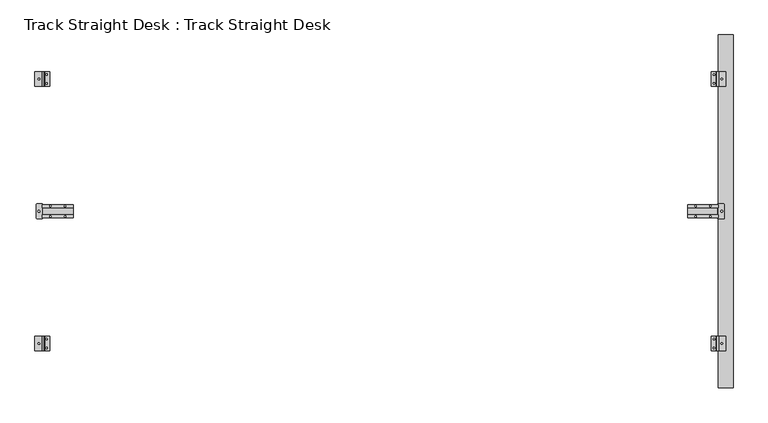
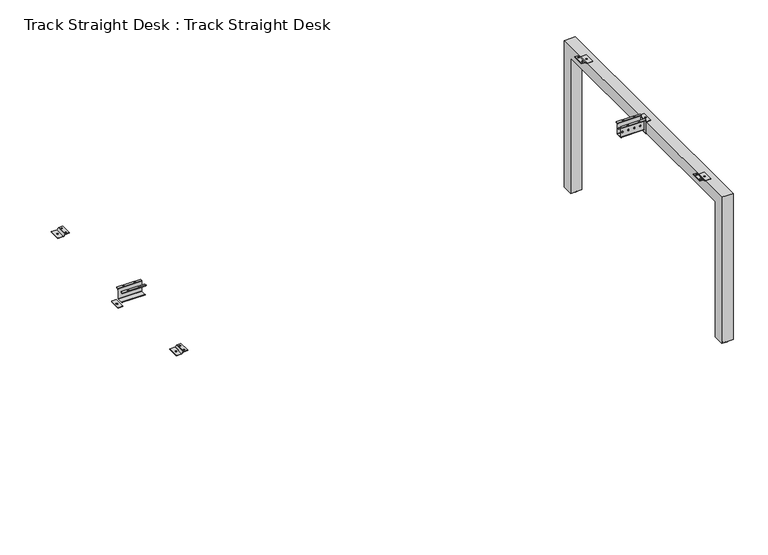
"""IFC4 building model written with IfcOpenShell, lengths in millimetres: furniture geometry, Track Straight Desk : Track Straight Desk."""

from ifc_helpers import new_model, si_unit, point, frame, frame_2d, origin, place, context, project, spatial, polyline, circle_curve, ellipse_curve, trimmed, segment, composite_curve, outline, extrude, source, transform, mapped, element, save
from ifc_brep_helpers import plane_surface, cylinder_surface, revolved_surface, advanced_brep


def track_straight_desk_track_straight_desk_92b57662(model_context):
    return source(origin(), model_context, "Body", "SolidModel", [
        extrude(outline(polyline([(687.4999489, 1150.8242226), (694.9999998, 1142.8242249), (694.9999998, 1141.9957962), (692.9999765, 1141.9957962), (685.4999983, 1149.9957939), (685.4999983, 1150.8242226), (687.4999489, 1150.8242226)])), frame((0.0, 424.9999578, 0.0), z_axis=(0.0, 1.0, 0.0), x_axis=(0.0, 0.0, 1.0)), (0.0, 0.0, 1.0), 50.0000004),
        extrude(outline(polyline([(1125.0000086, 424.9999578), (1125.0000086, 474.9999582), (1141.9957962, 474.9999582), (1141.9957962, 424.9999578), (1125.0000086, 424.9999578)]), holes=[composite_curve([segment(trimmed(circle_curve(frame_2d((1135.0000114, 434.9999652)), 2.4999928), [point((1137.5000041, 434.9999652))], [point((1132.5000186, 434.9999652))], True, "CARTESIAN"), True, "CONTINUOUS"), segment(trimmed(circle_curve(frame_2d((1135.0000114, 434.9999652)), 2.4999928), [point((1132.5000186, 434.9999652))], [point((1137.5000041, 434.9999652))], True, "CARTESIAN"), True, "CONTINUOUS")], self_intersect=False), composite_curve([segment(trimmed(circle_curve(frame_2d((1135.0000114, 464.9999509)), 2.4999928), [point((1137.5000041, 464.9999509))], [point((1132.5000186, 464.9999509))], True, "CARTESIAN"), True, "CONTINUOUS"), segment(trimmed(circle_curve(frame_2d((1135.0000114, 464.9999509)), 2.4999928), [point((1132.5000186, 464.9999509))], [point((1137.5000041, 464.9999509))], True, "CARTESIAN"), True, "CONTINUOUS")], self_intersect=False)]), frame((0.0, 0.0, 692.9999765), z_axis=(0.0, 0.0, 1.0), x_axis=(1.0, 0.0, 0.0)), (0.0, 0.0, 1.0), 2.0000233),
        extrude(outline(polyline([(1150.8242226, 424.9999578), (1150.8242226, 474.9999582), (1175.000009, 474.9999582), (1175.000009, 424.9999578), (1150.8242226, 424.9999578)]), holes=[composite_curve([segment(trimmed(circle_curve(frame_2d((1161.5000109, 449.999958)), 2.9999986), [point((1164.5000094, 449.999958))], [point((1158.5000123, 449.999958))], True, "CARTESIAN"), True, "CONTINUOUS"), segment(trimmed(circle_curve(frame_2d((1161.5000109, 449.999958)), 2.9999986), [point((1158.5000123, 449.999958))], [point((1164.5000094, 449.999958))], True, "CARTESIAN"), True, "CONTINUOUS")], self_intersect=False)]), frame((0.0, 0.0, 685.4999983), z_axis=(0.0, 0.0, 1.0), x_axis=(1.0, 0.0, 0.0)), (0.0, 0.0, 1.0), 1.9999506),
        extrude(outline(polyline([(687.4999489, -1150.8242226), (685.4999983, -1150.8242226), (685.4999983, -1149.9957939), (692.9999765, -1141.9957962), (694.9999998, -1141.9957962), (694.9999998, -1142.8242249), (687.4999489, -1150.8242226)])), frame((0.0, 424.9999578, 0.0), z_axis=(0.0, 1.0, 0.0), x_axis=(0.0, 0.0, 1.0)), (0.0, 0.0, 1.0), 50.0000004),
        extrude(outline(polyline([(-1125.0000086, 424.9999578), (-1141.9957962, 424.9999578), (-1141.9957962, 474.9999582), (-1125.0000086, 474.9999582), (-1125.0000086, 424.9999578)]), holes=[composite_curve([segment(trimmed(circle_curve(frame_2d((-1135.0000114, 434.9999652)), 2.4999928), [point((-1137.5000041, 434.9999652))], [point((-1132.5000186, 434.9999652))], True, "CARTESIAN"), True, "CONTINUOUS"), segment(trimmed(circle_curve(frame_2d((-1135.0000114, 434.9999652)), 2.4999928), [point((-1132.5000186, 434.9999652))], [point((-1137.5000041, 434.9999652))], True, "CARTESIAN"), True, "CONTINUOUS")], self_intersect=False), composite_curve([segment(trimmed(circle_curve(frame_2d((-1135.0000114, 464.9999509)), 2.4999928), [point((-1137.5000041, 464.9999509))], [point((-1132.5000186, 464.9999509))], True, "CARTESIAN"), True, "CONTINUOUS"), segment(trimmed(circle_curve(frame_2d((-1135.0000114, 464.9999509)), 2.4999928), [point((-1132.5000186, 464.9999509))], [point((-1137.5000041, 464.9999509))], True, "CARTESIAN"), True, "CONTINUOUS")], self_intersect=False)]), frame((0.0, 0.0, 692.9999765), z_axis=(0.0, 0.0, 1.0), x_axis=(1.0, 0.0, 0.0)), (0.0, 0.0, 1.0), 2.0000233),
        extrude(outline(polyline([(-1150.8242226, 424.9999578), (-1175.000009, 424.9999578), (-1175.000009, 474.9999582), (-1150.8242226, 474.9999582), (-1150.8242226, 424.9999578)]), holes=[composite_curve([segment(trimmed(circle_curve(frame_2d((-1161.5000109, 449.999958)), 2.9999986), [point((-1164.5000094, 449.999958))], [point((-1158.5000123, 449.999958))], True, "CARTESIAN"), True, "CONTINUOUS"), segment(trimmed(circle_curve(frame_2d((-1161.5000109, 449.999958)), 2.9999986), [point((-1158.5000123, 449.999958))], [point((-1164.5000094, 449.999958))], True, "CARTESIAN"), True, "CONTINUOUS")], self_intersect=False)]), frame((0.0, 0.0, 685.4999983), z_axis=(0.0, 0.0, 1.0), x_axis=(1.0, 0.0, 0.0)), (0.0, 0.0, 1.0), 1.9999506),
        extrude(outline(polyline([(687.4999489, 1150.8242226), (694.9999998, 1142.8242249), (694.9999998, 1141.9957962), (692.9999765, 1141.9957962), (685.4999983, 1149.9957939), (685.4999983, 1150.8242226), (687.4999489, 1150.8242226)])), frame((0.0, -474.9999582, 0.0), z_axis=(0.0, 1.0, 0.0), x_axis=(0.0, 0.0, 1.0)), (0.0, 0.0, 1.0), 50.0000004),
        extrude(outline(polyline([(1125.0000086, -424.9999578), (1141.9957962, -424.9999578), (1141.9957962, -474.9999582), (1125.0000086, -474.9999582), (1125.0000086, -424.9999578)]), holes=[composite_curve([segment(trimmed(circle_curve(frame_2d((1135.0000114, -434.9999652)), 2.4999928), [point((1137.5000041, -434.9999652))], [point((1132.5000186, -434.9999652))], True, "CARTESIAN"), True, "CONTINUOUS"), segment(trimmed(circle_curve(frame_2d((1135.0000114, -434.9999652)), 2.4999928), [point((1132.5000186, -434.9999652))], [point((1137.5000041, -434.9999652))], True, "CARTESIAN"), True, "CONTINUOUS")], self_intersect=False), composite_curve([segment(trimmed(circle_curve(frame_2d((1135.0000114, -464.9999509)), 2.4999928), [point((1137.5000041, -464.9999509))], [point((1132.5000186, -464.9999509))], True, "CARTESIAN"), True, "CONTINUOUS"), segment(trimmed(circle_curve(frame_2d((1135.0000114, -464.9999509)), 2.4999928), [point((1132.5000186, -464.9999509))], [point((1137.5000041, -464.9999509))], True, "CARTESIAN"), True, "CONTINUOUS")], self_intersect=False)]), frame((0.0, 0.0, 692.9999765), z_axis=(0.0, 0.0, 1.0), x_axis=(1.0, 0.0, 0.0)), (0.0, 0.0, 1.0), 2.0000233),
        extrude(outline(polyline([(1150.8242226, -424.9999578), (1175.000009, -424.9999578), (1175.000009, -474.9999582), (1150.8242226, -474.9999582), (1150.8242226, -424.9999578)]), holes=[composite_curve([segment(trimmed(circle_curve(frame_2d((1161.5000109, -449.999958)), 2.9999986), [point((1164.5000094, -449.999958))], [point((1158.5000123, -449.999958))], True, "CARTESIAN"), True, "CONTINUOUS"), segment(trimmed(circle_curve(frame_2d((1161.5000109, -449.999958)), 2.9999986), [point((1158.5000123, -449.999958))], [point((1164.5000094, -449.999958))], True, "CARTESIAN"), True, "CONTINUOUS")], self_intersect=False)]), frame((0.0, 0.0, 685.4999983), z_axis=(0.0, 0.0, 1.0), x_axis=(1.0, 0.0, 0.0)), (0.0, 0.0, 1.0), 1.9999506),
        extrude(outline(composite_curve([segment(trimmed(circle_curve(frame_2d((1148.5332303, 21.0956979)), 1.4667785), [point((1148.5332303, 22.5624764))], [point((1150.0000088, 21.0956979))], False, "CARTESIAN"), True, "CONTINUOUS"), segment(polyline([(1150.0000088, 21.0956979), (1150.0000088, 12.5625054), (1045.0000043, 12.5625054), (1045.0000043, 21.0936287)]), True, "CONTINUOUS"), segment(trimmed(circle_curve(frame_2d((1046.468852, 21.0936287)), 1.4688476), [point((1045.0000043, 21.0936287))], [point((1046.468852, 22.5624764))], False, "CARTESIAN"), True, "CONTINUOUS"), segment(polyline([(1046.468852, 22.5624764), (1148.5332303, 22.5624764)]), True, "CONTINUOUS")], self_intersect=False), holes=[composite_curve([segment(trimmed(circle_curve(frame_2d((1122.5000067, 17.5624909)), 2.5000018), [point((1125.0000086, 17.5624909))], [point((1120.0000049, 17.5624909))], True, "CARTESIAN"), True, "CONTINUOUS"), segment(trimmed(circle_curve(frame_2d((1122.5000067, 17.5624909)), 2.5000018), [point((1120.0000049, 17.5624909))], [point((1125.0000086, 17.5624909))], True, "CARTESIAN"), True, "CONTINUOUS")], self_intersect=False), composite_curve([segment(trimmed(circle_curve(frame_2d((1072.5000064, 17.5624909)), 2.5000018), [point((1075.0000082, 17.5624909))], [point((1070.0000045, 17.5624909))], True, "CARTESIAN"), True, "CONTINUOUS"), segment(trimmed(circle_curve(frame_2d((1072.5000064, 17.5624909)), 2.5000018), [point((1070.0000045, 17.5624909))], [point((1075.0000082, 17.5624909))], True, "CARTESIAN"), True, "CONTINUOUS")], self_intersect=False)]), frame((0.0, 0.0, 692.5000071), z_axis=(0.0, 0.0, 1.0), x_axis=(1.0, 0.0, 0.0)), (0.0, 0.0, 1.0), 2.4999928),
        extrude(outline(composite_curve([segment(polyline([(1148.5332303, -22.5624582), (1046.468852, -22.5624582)]), True, "CONTINUOUS"), segment(trimmed(circle_curve(frame_2d((1046.468852, -21.0936106)), 1.4688476), [point((1046.468852, -22.5624582))], [point((1045.0000043, -21.0936106))], False, "CARTESIAN"), True, "CONTINUOUS"), segment(polyline([(1045.0000043, -21.0936106), (1045.0000043, -12.5624872), (1150.0000088, -12.5624872), (1150.0000088, -21.0956797)]), True, "CONTINUOUS"), segment(trimmed(circle_curve(frame_2d((1148.5332303, -21.0956797)), 1.4667785), [point((1150.0000088, -21.0956797))], [point((1148.5332303, -22.5624582))], False, "CARTESIAN"), True, "CONTINUOUS")], self_intersect=False), holes=[composite_curve([segment(trimmed(circle_curve(frame_2d((1122.5000067, -17.5624727)), 2.5000018), [point((1125.0000086, -17.5624727))], [point((1120.0000049, -17.5624727))], True, "CARTESIAN"), True, "CONTINUOUS"), segment(trimmed(circle_curve(frame_2d((1122.5000067, -17.5624727)), 2.5000018), [point((1120.0000049, -17.5624727))], [point((1125.0000086, -17.5624727))], True, "CARTESIAN"), True, "CONTINUOUS")], self_intersect=False), composite_curve([segment(trimmed(circle_curve(frame_2d((1072.5000064, -17.5624727)), 2.5000018), [point((1075.0000082, -17.5624727))], [point((1070.0000045, -17.5624727))], True, "CARTESIAN"), True, "CONTINUOUS"), segment(trimmed(circle_curve(frame_2d((1072.5000064, -17.5624727)), 2.5000018), [point((1070.0000045, -17.5624727))], [point((1075.0000082, -17.5624727))], True, "CARTESIAN"), True, "CONTINUOUS")], self_intersect=False)]), frame((0.0, 0.0, 692.5000071), z_axis=(0.0, 0.0, 1.0), x_axis=(1.0, 0.0, 0.0)), (0.0, 0.0, 1.0), 2.4999928),
        extrude(outline(composite_curve([segment(polyline([(12.5625054, 644.9999994), (12.5625054, 645.9999994), (13.825873, 645.9999994), (13.825873, 644.2418639)]), True, "CONTINUOUS"), segment(trimmed(circle_curve(frame_2d((13.325873, 644.2418639)), 0.5), [point((13.825873, 644.2418639))], [point((13.325873, 643.7418639))], False, "CARTESIAN"), True, "CONTINUOUS"), segment(polyline([(13.325873, 643.7418639), (-13.32506, 643.7418639)]), True, "CONTINUOUS"), segment(trimmed(circle_curve(frame_2d((-13.32506, 644.2426588)), 0.5007949), [point((-13.32506, 643.7418639))], [point((-13.8258548, 644.2426588))], False, "CARTESIAN"), True, "CONTINUOUS"), segment(polyline([(-13.8258548, 644.2426588), (-13.8258548, 645.9999994), (-12.5624872, 645.9999994), (-12.5624872, 644.9999994), (12.5625054, 644.9999994)]), True, "CONTINUOUS")], self_intersect=False)), frame((1045.0000043, 0.0, 0.0), z_axis=(1.0, 0.0, 0.0), x_axis=(0.0, 1.0, 0.0)), (0.0, 0.0, 1.0), 102.5000026),
        extrude(outline(polyline([(645.9999994, 1045.0000043), (645.9999994, 1147.5000069), (687.999991, 1147.5000069), (687.999991, 1150.0000088), (692.5000071, 1150.0000088), (692.5000071, 1045.0000043), (645.9999994, 1045.0000043)]), holes=[composite_curve([segment(trimmed(circle_curve(frame_2d((668.1207902, 1130.0000123)), 2.9999986), [point((668.1207902, 1133.0000108))], [point((668.1207902, 1127.0000137))], True, "CARTESIAN"), True, "CONTINUOUS"), segment(trimmed(circle_curve(frame_2d((668.1207902, 1130.0000123)), 2.9999986), [point((668.1207902, 1127.0000137))], [point((668.1207902, 1133.0000108))], True, "CARTESIAN"), True, "CONTINUOUS")], self_intersect=False), composite_curve([segment(trimmed(circle_curve(frame_2d((668.1207902, 1104.0059247)), 2.9999986), [point((668.1207902, 1107.0059233))], [point((668.1207902, 1101.0059262))], True, "CARTESIAN"), True, "CONTINUOUS"), segment(trimmed(circle_curve(frame_2d((668.1207902, 1104.0059247)), 2.9999986), [point((668.1207902, 1101.0059262))], [point((668.1207902, 1107.0059233))], True, "CARTESIAN"), True, "CONTINUOUS")], self_intersect=False), composite_curve([segment(trimmed(circle_curve(frame_2d((668.1207902, 1078.0118372)), 2.9999986), [point((668.1207902, 1075.0118387))], [point((668.1207902, 1081.0118358))], True, "CARTESIAN"), True, "CONTINUOUS"), segment(trimmed(circle_curve(frame_2d((668.1207902, 1078.0118372)), 2.9999986), [point((668.1207902, 1081.0118358))], [point((668.1207902, 1075.0118387))], True, "CARTESIAN"), True, "CONTINUOUS")], self_intersect=False), composite_curve([segment(trimmed(circle_curve(frame_2d((668.1207902, 1052.0177497)), 2.9999986), [point((668.1207902, 1049.0177511))], [point((668.1207902, 1055.0177483))], True, "CARTESIAN"), True, "CONTINUOUS"), segment(trimmed(circle_curve(frame_2d((668.1207902, 1052.0177497)), 2.9999986), [point((668.1207902, 1055.0177483))], [point((668.1207902, 1049.0177511))], True, "CARTESIAN"), True, "CONTINUOUS")], self_intersect=False)]), frame((0.0, 12.5625054, 0.0), z_axis=(0.0, 1.0, 0.0), x_axis=(0.0, 0.0, 1.0)), (0.0, 0.0, 1.0), 1.2633677),
        extrude(outline(composite_curve([segment(trimmed(circle_curve(frame_2d((1167.9824993, 22.9825351)), 2.0175105), [point((1167.9824993, 25.0000456))], [point((1170.0000098, 22.9825351))], False, "CARTESIAN"), True, "CONTINUOUS"), segment(polyline([(1170.0000098, 22.9825351), (1170.0000098, -22.9713684)]), True, "CONTINUOUS"), segment(trimmed(circle_curve(frame_2d((1167.9714234, -22.9713684)), 2.0285864), [point((1170.0000098, -22.9713684))], [point((1167.9714234, -24.9999548))], False, "CARTESIAN"), True, "CONTINUOUS"), segment(polyline([(1167.9714234, -24.9999548), (1150.0000088, -24.9999548), (1150.0000088, 25.0000456), (1167.9824993, 25.0000456)]), True, "CONTINUOUS")], self_intersect=False), holes=[composite_curve([segment(trimmed(circle_curve(frame_2d((1161.5000109, 4.54e-05)), 3.2500196), [point((1164.7500305, 4.54e-05))], [point((1158.2499912, 4.54e-05))], True, "CARTESIAN"), True, "CONTINUOUS"), segment(trimmed(circle_curve(frame_2d((1161.5000109, 4.54e-05)), 3.2500196), [point((1158.2499912, 4.54e-05))], [point((1164.7500305, 4.54e-05))], True, "CARTESIAN"), True, "CONTINUOUS")], self_intersect=False)]), frame((0.0, 0.0, 633.0000051), z_axis=(0.0, 0.0, 1.0), x_axis=(1.0, 0.0, 0.0)), (0.0, 0.0, 1.0), 2.4999928),
        extrude(outline(composite_curve([segment(trimmed(circle_curve(frame_2d((1167.9824993, 22.9825351)), 2.0175105), [point((1167.9824993, 25.0000456))], [point((1170.0000098, 22.9825351))], False, "CARTESIAN"), True, "CONTINUOUS"), segment(polyline([(1170.0000098, 22.9825351), (1170.0000098, -22.9713684)]), True, "CONTINUOUS"), segment(trimmed(circle_curve(frame_2d((1167.9714234, -22.9713684)), 2.0285864), [point((1170.0000098, -22.9713684))], [point((1167.9714234, -24.9999548))], False, "CARTESIAN"), True, "CONTINUOUS"), segment(polyline([(1167.9714234, -24.9999548), (1150.0000088, -24.9999548), (1150.0000088, 25.0000456), (1167.9824993, 25.0000456)]), True, "CONTINUOUS")], self_intersect=False), holes=[composite_curve([segment(trimmed(circle_curve(frame_2d((1161.5000109, 4.54e-05)), 3.2500196), [point((1164.7500305, 4.54e-05))], [point((1158.2499912, 4.54e-05))], True, "CARTESIAN"), True, "CONTINUOUS"), segment(trimmed(circle_curve(frame_2d((1161.5000109, 4.54e-05)), 3.2500196), [point((1158.2499912, 4.54e-05))], [point((1164.7500305, 4.54e-05))], True, "CARTESIAN"), True, "CONTINUOUS")], self_intersect=False)]), frame((0.0, 0.0, 685.4999983), z_axis=(0.0, 0.0, 1.0), x_axis=(1.0, 0.0, 0.0)), (0.0, 0.0, 1.0), 2.4999928),
        extrude(outline(composite_curve([segment(polyline([(687.999991, 1150.0000088), (687.999991, 1148.0000069)]), True, "CONTINUOUS"), segment(trimmed(circle_curve(frame_2d((687.499991, 1148.0000069)), 0.5), [point((687.999991, 1148.0000069))], [point((687.499991, 1147.5000069))], False, "CARTESIAN"), True, "CONTINUOUS"), segment(polyline([(687.499991, 1147.5000069), (633.5414345, 1147.5000069)]), True, "CONTINUOUS"), segment(trimmed(circle_curve(frame_2d((633.5414345, 1148.0414362)), 0.5414293), [point((633.5414345, 1147.5000069))], [point((633.0000051, 1148.0414362))], False, "CARTESIAN"), True, "CONTINUOUS"), segment(polyline([(633.0000051, 1148.0414362), (633.0000051, 1150.0000088), (687.999991, 1150.0000088)]), True, "CONTINUOUS")], self_intersect=False)), frame((0.0, -24.9999548, 0.0), z_axis=(0.0, 1.0, 0.0), x_axis=(0.0, 0.0, 1.0)), (0.0, 0.0, 1.0), 50.0000004),
        extrude(outline(polyline([(645.9999994, 1045.0000043), (645.9999994, 1147.5000069), (687.999991, 1147.5000069), (687.999991, 1150.0000088), (692.5000071, 1150.0000088), (692.5000071, 1045.0000043), (645.9999994, 1045.0000043)]), holes=[composite_curve([segment(trimmed(circle_curve(frame_2d((668.1207902, 1130.0000123)), 2.9999986), [point((668.1207902, 1133.0000108))], [point((668.1207902, 1127.0000137))], True, "CARTESIAN"), True, "CONTINUOUS"), segment(trimmed(circle_curve(frame_2d((668.1207902, 1130.0000123)), 2.9999986), [point((668.1207902, 1127.0000137))], [point((668.1207902, 1133.0000108))], True, "CARTESIAN"), True, "CONTINUOUS")], self_intersect=False), composite_curve([segment(trimmed(circle_curve(frame_2d((668.1207902, 1104.0059247)), 2.9999986), [point((668.1207902, 1107.0059233))], [point((668.1207902, 1101.0059262))], True, "CARTESIAN"), True, "CONTINUOUS"), segment(trimmed(circle_curve(frame_2d((668.1207902, 1104.0059247)), 2.9999986), [point((668.1207902, 1101.0059262))], [point((668.1207902, 1107.0059233))], True, "CARTESIAN"), True, "CONTINUOUS")], self_intersect=False), composite_curve([segment(trimmed(circle_curve(frame_2d((668.1207902, 1078.0118372)), 2.9999986), [point((668.1207902, 1075.0118387))], [point((668.1207902, 1081.0118358))], True, "CARTESIAN"), True, "CONTINUOUS"), segment(trimmed(circle_curve(frame_2d((668.1207902, 1078.0118372)), 2.9999986), [point((668.1207902, 1081.0118358))], [point((668.1207902, 1075.0118387))], True, "CARTESIAN"), True, "CONTINUOUS")], self_intersect=False), composite_curve([segment(trimmed(circle_curve(frame_2d((668.1207902, 1052.0177497)), 2.9999986), [point((668.1207902, 1049.0177511))], [point((668.1207902, 1055.0177483))], True, "CARTESIAN"), True, "CONTINUOUS"), segment(trimmed(circle_curve(frame_2d((668.1207902, 1052.0177497)), 2.9999986), [point((668.1207902, 1055.0177483))], [point((668.1207902, 1049.0177511))], True, "CARTESIAN"), True, "CONTINUOUS")], self_intersect=False)]), frame((0.0, -13.8258548, 0.0), z_axis=(0.0, 1.0, 0.0), x_axis=(0.0, 0.0, 1.0)), (0.0, 0.0, 1.0), 1.2633677),
        advanced_brep(
        [(1200.0000092, 549.9999769, 5.4999998), (1150.0000088, 549.9999769, 5.4999998), (1150.0000088, 599.9999773, 5.4999998), (1200.0000092, 599.9999773, 5.4999998), (1198.0000092, 551.9999275, 5.4999998), (1198.0000092, 597.9999541, 5.4999998), (1152.0000093, 597.9999541, 5.4999998), (1152.0000093, 551.9999275, 5.4999998), (1200.0000092, -549.9999769, 5.4999998), (1200.0000092, -599.9999773, 5.4999998), (1150.0000088, -599.9999773, 5.4999998), (1150.0000088, -549.9999769, 5.4999998), (1198.0000092, -551.9999275, 5.4999998), (1152.0000093, -551.9999275, 5.4999998), (1152.0000093, -597.9999541, 5.4999998), (1198.0000092, -597.9999541, 5.4999998), (1200.0000092, 599.9999773, 685.5), (1200.0000092, -599.9999773, 685.5), (1200.0000092, -549.9999769, 635.4999996), (1200.0000092, 549.9999769, 635.4999996), (1150.0000088, 599.9999773, 685.5), (1150.0000088, 549.9999769, 635.4999996), (1150.0000088, -549.9999769, 635.4999996), (1150.0000088, -599.9999773, 685.5), (1198.0000092, 551.9999275, 637.4999502), (1198.0000092, 551.9999275, 18.4999995), (1152.0000093, 551.9999275, 18.4999995), (1152.0000093, 551.9999275, 637.4999502), (1152.0000093, 551.9999275, 15.4999998), (1198.0000092, 551.9999275, 15.4999998), (1152.0000093, 597.9999541, 18.4999995), (1152.0000093, 597.9999541, 683.4999767), (1152.0000093, -597.9999541, 683.4999767), (1152.0000093, -597.9999541, 18.4999995), (1152.0000093, -551.9999275, 18.4999995), (1152.0000093, -551.9999275, 637.4999502), (1152.0000093, -551.9999275, 15.4999998), (1152.0000093, -597.9999541, 15.4999998), (1152.0000093, 597.9999541, 15.4999998), (1198.0000092, 597.9999541, 18.4999995), (1198.0000092, 597.9999541, 683.4999767), (1198.0000092, 597.9999541, 15.4999998), (1198.0000092, -551.9999275, 637.4999502), (1198.0000092, -551.9999275, 18.4999995), (1198.0000092, -597.9999541, 18.4999995), (1198.0000092, -597.9999541, 683.4999767), (1198.0000092, -597.9999541, 15.4999998), (1198.0000092, -551.9999275, 15.4999998), (1180.5000094, 574.9999681, 18.4999995), (1169.5000086, 574.9999681, 18.4999995), (1180.5000094, 574.9999681, 15.4999998), (1169.5000086, 574.9999681, 15.4999998), (1180.5000094, -574.9999681, 18.4999995), (1169.5000086, -574.9999681, 18.4999995), (1180.5000094, -574.9999681, 15.4999998), (1169.5000086, -574.9999681, 15.4999998)],
        [
            (0, 1),
            (1, 2),
            (2, 3),
            (3, 0),
            (4, 5),
            (5, 6),
            (6, 7),
            (7, 4),
            (8, 9),
            (9, 10),
            (10, 11),
            (11, 8),
            (12, 13),
            (13, 14),
            (14, 15),
            (15, 12),
            (3, 16),
            (16, 17),
            (17, 9),
            (8, 18),
            (18, 19),
            (19, 0),
            (2, 20),
            (20, 16),
            (1, 21),
            (21, 22),
            (22, 11),
            (10, 23),
            (23, 20),
            (19, 21),
            (24, 25),
            (25, 26),
            (26, 27),
            (27, 24),
            (7, 28),
            (28, 29),
            (29, 4),
            (26, 30),
            (30, 31),
            (31, 32),
            (32, 33),
            (33, 34),
            (34, 35),
            (35, 27),
            (13, 36),
            (36, 37),
            (37, 14),
            (6, 38),
            (38, 28),
            (30, 39),
            (39, 40),
            (40, 31),
            (5, 41),
            (41, 38),
            (29, 41),
            (39, 25),
            (24, 42),
            (42, 43),
            (43, 44),
            (44, 45),
            (45, 40),
            (15, 46),
            (46, 47),
            (47, 12),
            (23, 17),
            (18, 22),
            (35, 42),
            (45, 32),
            (34, 43),
            (47, 36),
            (44, 33),
            (37, 46),
            (48, 49, circle_curve(frame((1175.000009, 574.9999681, 18.4999995), z_axis=(0.0, 0.0, -1.0), x_axis=(-1.0, 0.0, 0.0)), 5.5000004)),
            (49, 48, circle_curve(frame((1175.000009, 574.9999681, 18.4999995), z_axis=(0.0, 0.0, -1.0), x_axis=(-1.0, 0.0, 0.0)), 5.5000004)),
            (50, 51, circle_curve(frame((1175.000009, 574.9999681, 15.4999998), z_axis=(0.0, 0.0, 1.0), x_axis=(-1.0, 0.0, 0.0)), 5.5000004)),
            (51, 50, circle_curve(frame((1175.000009, 574.9999681, 15.4999998), z_axis=(0.0, 0.0, 1.0), x_axis=(-1.0, 0.0, 0.0)), 5.5000004)),
            (48, 50),
            (51, 49),
            (52, 53, circle_curve(frame((1175.000009, -574.9999681, 18.4999995), z_axis=(0.0, 0.0, -1.0), x_axis=(-1.0, 0.0, 0.0)), 5.5000004)),
            (53, 52, circle_curve(frame((1175.000009, -574.9999681, 18.4999995), z_axis=(0.0, 0.0, -1.0), x_axis=(-1.0, 0.0, 0.0)), 5.5000004)),
            (54, 55, circle_curve(frame((1175.000009, -574.9999681, 15.4999998), z_axis=(0.0, 0.0, 1.0), x_axis=(-1.0, 0.0, 0.0)), 5.5000004)),
            (55, 54, circle_curve(frame((1175.000009, -574.9999681, 15.4999998), z_axis=(0.0, 0.0, 1.0), x_axis=(-1.0, 0.0, 0.0)), 5.5000004)),
            (53, 55),
            (54, 52),
        ],
        [
            plane_surface(frame((1175.000009, 599.9999773, 5.4999998), z_axis=(0.0, 0.0, -1.0), x_axis=(-1.0, 0.0, 0.0))),
            plane_surface(frame((1175.000009, -599.9999773, 5.4999998), z_axis=(0.0, 0.0, -1.0), x_axis=(-1.0, 0.0, 0.0))),
            plane_surface(frame((1200.0000092, 549.9999769, 5.4999998), z_axis=(1.0, 0.0, 0.0), x_axis=(0.0, 0.0, 1.0))),
            plane_surface(frame((1200.0000092, 599.9999773, 5.4999998), z_axis=(0.0, 1.0, 0.0), x_axis=(0.0, 0.0, 1.0))),
            plane_surface(frame((1150.0000088, 599.9999773, 5.4999998), z_axis=(-1.0, 0.0, 0.0), x_axis=(0.0, 0.0, 1.0))),
            plane_surface(frame((1150.0000088, 549.9999769, 5.4999998), z_axis=(0.0, -1.0, 0.0), x_axis=(0.0, 0.0, 1.0))),
            plane_surface(frame((1198.0000092, 551.9999275, 5.4999998), z_axis=(0.0, 1.0, 0.0), x_axis=(0.0, 0.0, 1.0))),
            plane_surface(frame((1152.0000093, 551.9999275, 5.4999998), z_axis=(1.0, 0.0, 0.0), x_axis=(0.0, 0.0, 1.0))),
            plane_surface(frame((1152.0000093, 597.9999541, 5.4999998), z_axis=(0.0, -1.0, 0.0), x_axis=(0.0, 0.0, 1.0))),
            plane_surface(frame((1198.0000092, 597.9999541, 5.4999998), z_axis=(-1.0, 0.0, 0.0), x_axis=(0.0, 0.0, 1.0))),
            plane_surface(frame((1200.0000092, 599.9999773, 685.5), z_axis=(0.0, 0.0, 1.0), x_axis=(0.0, -1.0, 0.0))),
            plane_surface(frame((1150.0000088, 549.9999769, 635.4999996), z_axis=(0.0, 0.0, -1.0), x_axis=(0.0, -1.0, 0.0))),
            plane_surface(frame((1198.0000092, 551.9999275, 637.4999502), z_axis=(0.0, 0.0, 1.0), x_axis=(0.0, -1.0, 0.0))),
            plane_surface(frame((1152.0000093, 597.9999541, 683.4999767), z_axis=(0.0, 0.0, -1.0), x_axis=(0.0, -1.0, 0.0))),
            plane_surface(frame((1200.0000092, -599.9999773, 685.5), z_axis=(0.0, -1.0, 0.0), x_axis=(0.0, 0.0, -1.0))),
            plane_surface(frame((1150.0000088, -549.9999769, 635.4999996), z_axis=(0.0, 1.0, 0.0), x_axis=(0.0, 0.0, -1.0))),
            plane_surface(frame((1198.0000092, -551.9999275, 637.4999502), z_axis=(0.0, -1.0, 0.0), x_axis=(0.0, 0.0, -1.0))),
            plane_surface(frame((1152.0000093, -597.9999541, 683.4999767), z_axis=(0.0, 1.0, 0.0), x_axis=(0.0, 0.0, -1.0))),
            plane_surface(frame((1152.0000093, 551.9999275, 18.4999995), z_axis=(0.0, 0.0, 1.0), x_axis=(0.0, 1.0, 0.0))),
            plane_surface(frame((1152.0000093, 551.9999275, 15.4999998), z_axis=(0.0, 0.0, -1.0), x_axis=(0.0, -1.0, 0.0))),
            revolved_surface(polyline([(1169.5000086, 574.9999681, 15.4999998), (1169.5000086, 574.9999681, 18.4999995)]), (1175.000009, 574.9999681, 0.0), (0.0, 0.0, -1.0)),
            plane_surface(frame((1198.0000092, -551.9999275, 18.4999995), z_axis=(0.0, 0.0, 1.0), x_axis=(1.0, 0.0, 0.0))),
            plane_surface(frame((1198.0000092, -551.9999275, 15.4999998), z_axis=(0.0, 0.0, -1.0), x_axis=(-1.0, 0.0, 0.0))),
            revolved_surface(polyline([(1169.5000086, -574.9999681, 15.4999998), (1169.5000086, -574.9999681, 18.4999995)]), (1175.000009, -574.9999681, 0.0), (0.0, 0.0, -1.0)),
        ],
        [
            (0, [[1, 2, 3, 4], [5, 6, 7, 8]]),
            (1, [[9, 10, 11, 12], [13, 14, 15, 16]]),
            (2, [[17, 18, 19, -9, 20, 21, 22, -4]]),
            (3, [[23, 24, -17, -3]]),
            (4, [[25, 26, 27, -11, 28, 29, -23, -2]]),
            (5, [[-22, 30, -25, -1]]),
            (6, [[31, 32, 33, 34]]),
            (6, [[35, 36, 37, -8]]),
            (7, [[-33, 38, 39, 40, 41, 42, 43, 44]]),
            (7, [[45, 46, 47, -14]]),
            (7, [[48, 49, -35, -7]]),
            (8, [[-39, 50, 51, 52]]),
            (8, [[53, 54, -48, -6]]),
            (9, [[-37, 55, -53, -5]]),
            (9, [[-51, 56, -31, 57, 58, 59, 60, 61]]),
            (9, [[62, 63, 64, -16]]),
            (10, [[-24, -29, 65, -18]]),
            (11, [[66, -26, -30, -21]]),
            (12, [[-44, 67, -57, -34]]),
            (13, [[-52, -61, 68, -40]]),
            (14, [[-19, -65, -28, -10]]),
            (15, [[-27, -66, -20, -12]]),
            (16, [[-43, 69, -58, -67]]),
            (16, [[-64, 70, -45, -13]]),
            (17, [[-60, 71, -41, -68]]),
            (17, [[-47, 72, -62, -15]]),
            (18, [[-56, -50, -38, -32], [73, 74]]),
            (19, [[-49, -54, -55, -36], [75, 76]]),
            (20, [[77, -76, 78, -73]]),
            (20, [[-78, -75, -77, -74]]),
            (21, [[-71, -59, -69, -42], [79, 80]]),
            (22, [[-70, -63, -72, -46], [81, 82]]),
            (23, [[83, -81, 84, -80]]),
            (23, [[-84, -82, -83, -79]]),
        ],
    ),
        advanced_brep(
        [(1175.0000101, 578.999968, 70.0000014), (1175.0000101, 578.999968, 10.0000005), (1175.0000101, 570.9999681, 10.0000005), (1175.0000101, 570.9999681, 70.0000014), (1175.0000101, 585.9640529, 10.0000005), (1175.0000101, 564.0358832, 10.0000005), (1175.0000101, 585.9640529, 6.0), (1175.0000101, 564.0358832, 6.0), (1175.0000101, 593.045974, 6.0), (1175.0000101, 556.9539621, 6.0), (1175.0000101, 594.9999668, 4.0460071), (1175.0000101, 554.9999693, 4.0460071), (1175.0000101, 594.9999668, 2.0), (1175.0000101, 554.9999693, 2.0), (1175.0000101, 592.9999668, 0.0), (1175.0000101, 556.9999693, 0.0), (1175.0000101, 574.9999681, 0.0), (1175.0000101, 574.9999681, 70.0000014)],
        [
            (0, 1),
            (1, 2, circle_curve(frame((1175.0000101, 574.9999681, 10.0000005), z_axis=(0.0, 0.0, 1.0), x_axis=(0.0, -1.0, 0.0)), 4.0)),
            (2, 3),
            (3, 0, circle_curve(frame((1175.0000101, 574.9999681, 70.0000014), z_axis=(0.0, 0.0, -1.0), x_axis=(0.0, -1.0, 0.0)), 4.0)),
            (2, 1, circle_curve(frame((1175.0000101, 574.9999681, 10.0000005), z_axis=(0.0, 0.0, 1.0), x_axis=(0.0, -1.0, 0.0)), 4.0)),
            (0, 3, circle_curve(frame((1175.0000101, 574.9999681, 70.0000014), z_axis=(0.0, 0.0, -1.0), x_axis=(0.0, -1.0, 0.0)), 4.0)),
            (1, 4),
            (4, 5, circle_curve(frame((1175.0000101, 574.9999681, 10.0000005), z_axis=(0.0, 0.0, 1.0), x_axis=(0.0, -1.0, 0.0)), 10.9640848)),
            (5, 2),
            (5, 4, circle_curve(frame((1175.0000101, 574.9999681, 10.0000005), z_axis=(0.0, 0.0, 1.0), x_axis=(0.0, -1.0, 0.0)), 10.9640848)),
            (4, 6),
            (6, 7, circle_curve(frame((1175.0000101, 574.9999681, 6.0), z_axis=(0.0, 0.0, 1.0), x_axis=(0.0, -1.0, 0.0)), 10.9640848)),
            (7, 5),
            (7, 6, circle_curve(frame((1175.0000101, 574.9999681, 6.0), z_axis=(0.0, 0.0, 1.0), x_axis=(0.0, -1.0, 0.0)), 10.9640848)),
            (6, 8),
            (8, 9, circle_curve(frame((1175.0000101, 574.9999681, 6.0), z_axis=(0.0, 0.0, 1.0), x_axis=(0.0, -1.0, 0.0)), 18.0460059)),
            (9, 7),
            (9, 8, circle_curve(frame((1175.0000101, 574.9999681, 6.0), z_axis=(0.0, 0.0, 1.0), x_axis=(0.0, -1.0, 0.0)), 18.0460059)),
            (8, 10, circle_curve(frame((1175.0000101, 593.045974, 4.0460071), z_axis=(-1.0, 0.0, 0.0), x_axis=(0.0, -1.0, 0.0)), 1.9539929)),
            (10, 11, circle_curve(frame((1175.0000101, 574.9999681, 4.0460071), z_axis=(0.0, 0.0, 1.0), x_axis=(0.0, -1.0, 0.0)), 19.9999988)),
            (11, 9, circle_curve(frame((1175.0000101, 556.9539621, 4.0460071), z_axis=(-1.0, 0.0, 0.0), x_axis=(0.0, 1.0, 0.0)), 1.9539929)),
            (11, 10, circle_curve(frame((1175.0000101, 574.9999681, 4.0460071), z_axis=(0.0, 0.0, 1.0), x_axis=(0.0, -1.0, 0.0)), 19.9999988)),
            (10, 12),
            (12, 13, circle_curve(frame((1175.0000101, 574.9999681, 2.0), z_axis=(0.0, 0.0, 1.0), x_axis=(0.0, -1.0, 0.0)), 19.9999988)),
            (13, 11),
            (13, 12, circle_curve(frame((1175.0000101, 574.9999681, 2.0), z_axis=(0.0, 0.0, 1.0), x_axis=(0.0, -1.0, 0.0)), 19.9999988)),
            (12, 14, circle_curve(frame((1175.0000101, 592.9999668, 2.0), z_axis=(-1.0, 0.0, 0.0), x_axis=(0.0, -1.0, 0.0)), 2.0)),
            (14, 15, circle_curve(frame((1175.0000101, 574.9999681, 0.0), z_axis=(0.0, 0.0, 1.0), x_axis=(0.0, -1.0, 0.0)), 17.9999988)),
            (15, 13, circle_curve(frame((1175.0000101, 556.9999693, 2.0), z_axis=(-1.0, 0.0, 0.0), x_axis=(0.0, 1.0, 0.0)), 2.0)),
            (15, 14, circle_curve(frame((1175.0000101, 574.9999681, 0.0), z_axis=(0.0, 0.0, 1.0), x_axis=(0.0, -1.0, 0.0)), 17.9999988)),
            (14, 16),
            (16, 15),
            (17, 0),
            (3, 17),
        ],
        [
            cylinder_surface(frame((1175.0000101, 574.9999681, 70.0000014), z_axis=(0.0, 0.0, 1.0), x_axis=(0.0, -1.0, 0.0)), 4.0),
            plane_surface(frame((1175.0000101, 574.9999681, 10.0000005), z_axis=(0.0, 0.0, 1.0), x_axis=(0.0, -1.0, 0.0))),
            cylinder_surface(frame((1175.0000101, 574.9999681, 70.0000014), z_axis=(0.0, 0.0, 1.0), x_axis=(0.0, -1.0, 0.0)), 10.9640848),
            plane_surface(frame((1175.0000101, 574.9999681, 6.0), z_axis=(0.0, 0.0, 1.0), x_axis=(0.0, -1.0, 0.0))),
            revolved_surface(trimmed(ellipse_curve(frame((1175.0000101, 556.9539621, 4.0460071), z_axis=(-1.0, 0.0, 0.0), x_axis=(0.0, 1.0, 0.0)), 1.9539929, 1.9539929), [point((1175.0000101, 554.9999693, 4.0460071))], [point((1175.0000101, 556.9539621, 6.0))], True, "CARTESIAN"), (1175.0000101, 574.9999681, 70.0000014), (0.0, 0.0, 1.0)),
            cylinder_surface(frame((1175.0000101, 574.9999681, 70.0000014), z_axis=(0.0, 0.0, 1.0), x_axis=(0.0, -1.0, 0.0)), 19.9999988),
            revolved_surface(trimmed(ellipse_curve(frame((1175.0000101, 556.9999693, 2.0), z_axis=(-1.0, 0.0, 0.0), x_axis=(0.0, 1.0, 0.0)), 2.0, 2.0), [point((1175.0000101, 556.9999693, 0.0))], [point((1175.0000101, 554.9999693, 2.0))], True, "CARTESIAN"), (1175.0000101, 574.9999681, 70.0000014), (0.0, 0.0, 1.0)),
            plane_surface(frame((1175.0000101, 574.9999681, 0.0), z_axis=(0.0, 0.0, -1.0), x_axis=(0.0, -1.0, 0.0))),
            plane_surface(frame((1175.0000101, 574.9999681, 70.0000014), z_axis=(0.0, 0.0, 1.0), x_axis=(0.0, -1.0, 0.0))),
        ],
        [
            (0, [[1, 2, 3, 4]]),
            (0, [[-3, 5, -1, 6]]),
            (1, [[7, 8, 9, -2]]),
            (1, [[-9, 10, -7, -5]]),
            (2, [[11, 12, 13, -8]]),
            (2, [[-13, 14, -11, -10]]),
            (3, [[15, 16, 17, -12]]),
            (3, [[-17, 18, -15, -14]]),
            (4, [[19, 20, 21, -16]]),
            (4, [[-21, 22, -19, -18]]),
            (5, [[23, 24, 25, -20]]),
            (5, [[-25, 26, -23, -22]]),
            (6, [[27, 28, 29, -24]]),
            (6, [[-29, 30, -27, -26]]),
            (7, [[31, 32, -28]]),
            (7, [[-32, -31, -30]]),
            (8, [[33, -4, 34]]),
            (8, [[-34, -6, -33]]),
        ],
    ),
        advanced_brep(
        [(1175.0000101, -578.999968, 10.0000005), (1175.0000101, -578.999968, 70.0000014), (1175.0000101, -570.9999681, 70.0000014), (1175.0000101, -570.9999681, 10.0000005), (1175.0000101, -585.9640529, 10.0000005), (1175.0000101, -564.0358832, 10.0000005), (1175.0000101, -585.9640529, 6.0), (1175.0000101, -564.0358832, 6.0), (1175.0000101, -593.045974, 6.0), (1175.0000101, -556.9539621, 6.0), (1175.0000101, -594.9999668, 4.0460071), (1175.0000101, -554.9999693, 4.0460071), (1175.0000101, -594.9999668, 2.0), (1175.0000101, -554.9999693, 2.0), (1175.0000101, -592.9999668, 0.0), (1175.0000101, -556.9999693, 0.0), (1175.0000101, -574.9999681, 0.0), (1175.0000101, -574.9999681, 70.0000014)],
        [
            (0, 1),
            (1, 2, circle_curve(frame((1175.0000101, -574.9999681, 70.0000014), z_axis=(0.0, 0.0, -1.0), x_axis=(0.0, 1.0, 0.0)), 4.0)),
            (2, 3),
            (3, 0, circle_curve(frame((1175.0000101, -574.9999681, 10.0000005), z_axis=(0.0, 0.0, 1.0), x_axis=(0.0, 1.0, 0.0)), 4.0)),
            (2, 1, circle_curve(frame((1175.0000101, -574.9999681, 70.0000014), z_axis=(0.0, 0.0, -1.0), x_axis=(0.0, 1.0, 0.0)), 4.0)),
            (0, 3, circle_curve(frame((1175.0000101, -574.9999681, 10.0000005), z_axis=(0.0, 0.0, 1.0), x_axis=(0.0, 1.0, 0.0)), 4.0)),
            (4, 0),
            (3, 5),
            (5, 4, circle_curve(frame((1175.0000101, -574.9999681, 10.0000005), z_axis=(0.0, 0.0, 1.0), x_axis=(0.0, 1.0, 0.0)), 10.9640848)),
            (4, 5, circle_curve(frame((1175.0000101, -574.9999681, 10.0000005), z_axis=(0.0, 0.0, 1.0), x_axis=(0.0, 1.0, 0.0)), 10.9640848)),
            (6, 4),
            (5, 7),
            (7, 6, circle_curve(frame((1175.0000101, -574.9999681, 6.0), z_axis=(0.0, 0.0, 1.0), x_axis=(0.0, 1.0, 0.0)), 10.9640848)),
            (6, 7, circle_curve(frame((1175.0000101, -574.9999681, 6.0), z_axis=(0.0, 0.0, 1.0), x_axis=(0.0, 1.0, 0.0)), 10.9640848)),
            (8, 6),
            (7, 9),
            (9, 8, circle_curve(frame((1175.0000101, -574.9999681, 6.0), z_axis=(0.0, 0.0, 1.0), x_axis=(0.0, 1.0, 0.0)), 18.0460059)),
            (8, 9, circle_curve(frame((1175.0000101, -574.9999681, 6.0), z_axis=(0.0, 0.0, 1.0), x_axis=(0.0, 1.0, 0.0)), 18.0460059)),
            (10, 8, circle_curve(frame((1175.0000101, -593.045974, 4.0460071), z_axis=(-1.0, 0.0, 0.0), x_axis=(0.0, 1.0, 0.0)), 1.9539929)),
            (9, 11, circle_curve(frame((1175.0000101, -556.9539621, 4.0460071), z_axis=(-1.0, 0.0, 0.0), x_axis=(0.0, -1.0, 0.0)), 1.9539929)),
            (11, 10, circle_curve(frame((1175.0000101, -574.9999681, 4.0460071), z_axis=(0.0, 0.0, 1.0), x_axis=(0.0, 1.0, 0.0)), 19.9999988)),
            (10, 11, circle_curve(frame((1175.0000101, -574.9999681, 4.0460071), z_axis=(0.0, 0.0, 1.0), x_axis=(0.0, 1.0, 0.0)), 19.9999988)),
            (12, 10),
            (11, 13),
            (13, 12, circle_curve(frame((1175.0000101, -574.9999681, 2.0), z_axis=(0.0, 0.0, 1.0), x_axis=(0.0, 1.0, 0.0)), 19.9999988)),
            (12, 13, circle_curve(frame((1175.0000101, -574.9999681, 2.0), z_axis=(0.0, 0.0, 1.0), x_axis=(0.0, 1.0, 0.0)), 19.9999988)),
            (14, 12, circle_curve(frame((1175.0000101, -592.9999668, 2.0), z_axis=(-1.0, 0.0, 0.0), x_axis=(0.0, 1.0, 0.0)), 2.0)),
            (13, 15, circle_curve(frame((1175.0000101, -556.9999693, 2.0), z_axis=(-1.0, 0.0, 0.0), x_axis=(0.0, -1.0, 0.0)), 2.0)),
            (15, 14, circle_curve(frame((1175.0000101, -574.9999681, 0.0), z_axis=(0.0, 0.0, 1.0), x_axis=(0.0, 1.0, 0.0)), 17.9999988)),
            (14, 15, circle_curve(frame((1175.0000101, -574.9999681, 0.0), z_axis=(0.0, 0.0, 1.0), x_axis=(0.0, 1.0, 0.0)), 17.9999988)),
            (16, 14),
            (15, 16),
            (1, 17),
            (17, 2),
        ],
        [
            cylinder_surface(frame((1175.0000101, -574.9999681, 70.0000014), z_axis=(0.0, 0.0, -1.0), x_axis=(0.0, 1.0, 0.0)), 4.0),
            plane_surface(frame((1175.0000101, -574.9999681, 10.0000005), z_axis=(0.0, 0.0, 1.0), x_axis=(0.0, 1.0, 0.0))),
            cylinder_surface(frame((1175.0000101, -574.9999681, 70.0000014), z_axis=(0.0, 0.0, -1.0), x_axis=(0.0, 1.0, 0.0)), 10.9640848),
            plane_surface(frame((1175.0000101, -574.9999681, 6.0), z_axis=(0.0, 0.0, 1.0), x_axis=(0.0, 1.0, 0.0))),
            revolved_surface(trimmed(ellipse_curve(frame((1175.0000101, -556.9539621, 4.0460071), z_axis=(-1.0, 0.0, 0.0), x_axis=(0.0, -1.0, 0.0)), 1.9539929, 1.9539929), [point((1175.0000101, -556.9539621, 6.0))], [point((1175.0000101, -554.9999693, 4.0460071))], True, "CARTESIAN"), (1175.0000101, -574.9999681, 70.0000014), (0.0, 0.0, -1.0)),
            cylinder_surface(frame((1175.0000101, -574.9999681, 70.0000014), z_axis=(0.0, 0.0, -1.0), x_axis=(0.0, 1.0, 0.0)), 19.9999988),
            revolved_surface(trimmed(ellipse_curve(frame((1175.0000101, -556.9999693, 2.0), z_axis=(-1.0, 0.0, 0.0), x_axis=(0.0, -1.0, 0.0)), 2.0, 2.0), [point((1175.0000101, -554.9999693, 2.0))], [point((1175.0000101, -556.9999693, 0.0))], True, "CARTESIAN"), (1175.0000101, -574.9999681, 70.0000014), (0.0, 0.0, -1.0)),
            plane_surface(frame((1175.0000101, -574.9999681, 0.0), z_axis=(0.0, 0.0, -1.0), x_axis=(0.0, 1.0, 0.0))),
            plane_surface(frame((1175.0000101, -574.9999681, 70.0000014), z_axis=(0.0, 0.0, 1.0), x_axis=(0.0, 1.0, 0.0))),
        ],
        [
            (0, [[1, 2, 3, 4]]),
            (0, [[-3, 5, -1, 6]]),
            (1, [[7, -4, 8, 9]]),
            (1, [[-8, -6, -7, 10]]),
            (2, [[11, -9, 12, 13]]),
            (2, [[-12, -10, -11, 14]]),
            (3, [[15, -13, 16, 17]]),
            (3, [[-16, -14, -15, 18]]),
            (4, [[19, -17, 20, 21]]),
            (4, [[-20, -18, -19, 22]]),
            (5, [[23, -21, 24, 25]]),
            (5, [[-24, -22, -23, 26]]),
            (6, [[27, -25, 28, 29]]),
            (6, [[-28, -26, -27, 30]]),
            (7, [[31, -29, 32]]),
            (7, [[-32, -30, -31]]),
            (8, [[33, 34, -2]]),
            (8, [[-34, -33, -5]]),
        ],
    ),
        extrude(outline(polyline([(687.4999489, -1150.8242226), (685.4999983, -1150.8242226), (685.4999983, -1149.9957939), (692.9999765, -1141.9957962), (694.9999998, -1141.9957962), (694.9999998, -1142.8242249), (687.4999489, -1150.8242226)])), frame((0.0, -474.9999582, 0.0), z_axis=(0.0, 1.0, 0.0), x_axis=(0.0, 0.0, 1.0)), (0.0, 0.0, 1.0), 50.0000004),
        extrude(outline(polyline([(-1125.0000086, -424.9999578), (-1125.0000086, -474.9999582), (-1141.9957962, -474.9999582), (-1141.9957962, -424.9999578), (-1125.0000086, -424.9999578)]), holes=[composite_curve([segment(trimmed(circle_curve(frame_2d((-1135.0000114, -434.9999652)), 2.4999928), [point((-1137.5000041, -434.9999652))], [point((-1132.5000186, -434.9999652))], True, "CARTESIAN"), True, "CONTINUOUS"), segment(trimmed(circle_curve(frame_2d((-1135.0000114, -434.9999652)), 2.4999928), [point((-1132.5000186, -434.9999652))], [point((-1137.5000041, -434.9999652))], True, "CARTESIAN"), True, "CONTINUOUS")], self_intersect=False), composite_curve([segment(trimmed(circle_curve(frame_2d((-1135.0000114, -464.9999509)), 2.4999928), [point((-1137.5000041, -464.9999509))], [point((-1132.5000186, -464.9999509))], True, "CARTESIAN"), True, "CONTINUOUS"), segment(trimmed(circle_curve(frame_2d((-1135.0000114, -464.9999509)), 2.4999928), [point((-1132.5000186, -464.9999509))], [point((-1137.5000041, -464.9999509))], True, "CARTESIAN"), True, "CONTINUOUS")], self_intersect=False)]), frame((0.0, 0.0, 692.9999765), z_axis=(0.0, 0.0, 1.0), x_axis=(1.0, 0.0, 0.0)), (0.0, 0.0, 1.0), 2.0000233),
        extrude(outline(polyline([(-1150.8242226, -424.9999578), (-1150.8242226, -474.9999582), (-1175.000009, -474.9999582), (-1175.000009, -424.9999578), (-1150.8242226, -424.9999578)]), holes=[composite_curve([segment(trimmed(circle_curve(frame_2d((-1161.5000109, -449.999958)), 2.9999986), [point((-1164.5000094, -449.999958))], [point((-1158.5000123, -449.999958))], True, "CARTESIAN"), True, "CONTINUOUS"), segment(trimmed(circle_curve(frame_2d((-1161.5000109, -449.999958)), 2.9999986), [point((-1158.5000123, -449.999958))], [point((-1164.5000094, -449.999958))], True, "CARTESIAN"), True, "CONTINUOUS")], self_intersect=False)]), frame((0.0, 0.0, 685.4999983), z_axis=(0.0, 0.0, 1.0), x_axis=(1.0, 0.0, 0.0)), (0.0, 0.0, 1.0), 1.9999506),
        extrude(outline(composite_curve([segment(polyline([(-1148.5332303, 22.5624764), (-1046.468852, 22.5624764)]), True, "CONTINUOUS"), segment(trimmed(circle_curve(frame_2d((-1046.468852, 21.0936287)), 1.4688476), [point((-1046.468852, 22.5624764))], [point((-1045.0000043, 21.0936287))], False, "CARTESIAN"), True, "CONTINUOUS"), segment(polyline([(-1045.0000043, 21.0936287), (-1045.0000043, 12.5625054), (-1150.0000088, 12.5625054), (-1150.0000088, 21.0956979)]), True, "CONTINUOUS"), segment(trimmed(circle_curve(frame_2d((-1148.5332303, 21.0956979)), 1.4667785), [point((-1150.0000088, 21.0956979))], [point((-1148.5332303, 22.5624764))], False, "CARTESIAN"), True, "CONTINUOUS")], self_intersect=False), holes=[composite_curve([segment(trimmed(circle_curve(frame_2d((-1122.5000067, 17.5624909)), 2.5000018), [point((-1125.0000086, 17.5624909))], [point((-1120.0000049, 17.5624909))], True, "CARTESIAN"), True, "CONTINUOUS"), segment(trimmed(circle_curve(frame_2d((-1122.5000067, 17.5624909)), 2.5000018), [point((-1120.0000049, 17.5624909))], [point((-1125.0000086, 17.5624909))], True, "CARTESIAN"), True, "CONTINUOUS")], self_intersect=False), composite_curve([segment(trimmed(circle_curve(frame_2d((-1072.5000064, 17.5624909)), 2.5000018), [point((-1075.0000082, 17.5624909))], [point((-1070.0000045, 17.5624909))], True, "CARTESIAN"), True, "CONTINUOUS"), segment(trimmed(circle_curve(frame_2d((-1072.5000064, 17.5624909)), 2.5000018), [point((-1070.0000045, 17.5624909))], [point((-1075.0000082, 17.5624909))], True, "CARTESIAN"), True, "CONTINUOUS")], self_intersect=False)]), frame((0.0, 0.0, 692.5000071), z_axis=(0.0, 0.0, 1.0), x_axis=(1.0, 0.0, 0.0)), (0.0, 0.0, 1.0), 2.4999928),
        extrude(outline(composite_curve([segment(trimmed(circle_curve(frame_2d((-1148.5332303, -21.0956797)), 1.4667785), [point((-1148.5332303, -22.5624582))], [point((-1150.0000088, -21.0956797))], False, "CARTESIAN"), True, "CONTINUOUS"), segment(polyline([(-1150.0000088, -21.0956797), (-1150.0000088, -12.5624872), (-1045.0000043, -12.5624872), (-1045.0000043, -21.0936106)]), True, "CONTINUOUS"), segment(trimmed(circle_curve(frame_2d((-1046.468852, -21.0936106)), 1.4688476), [point((-1045.0000043, -21.0936106))], [point((-1046.468852, -22.5624582))], False, "CARTESIAN"), True, "CONTINUOUS"), segment(polyline([(-1046.468852, -22.5624582), (-1148.5332303, -22.5624582)]), True, "CONTINUOUS")], self_intersect=False), holes=[composite_curve([segment(trimmed(circle_curve(frame_2d((-1122.5000067, -17.5624727)), 2.5000018), [point((-1125.0000086, -17.5624727))], [point((-1120.0000049, -17.5624727))], True, "CARTESIAN"), True, "CONTINUOUS"), segment(trimmed(circle_curve(frame_2d((-1122.5000067, -17.5624727)), 2.5000018), [point((-1120.0000049, -17.5624727))], [point((-1125.0000086, -17.5624727))], True, "CARTESIAN"), True, "CONTINUOUS")], self_intersect=False), composite_curve([segment(trimmed(circle_curve(frame_2d((-1072.5000064, -17.5624727)), 2.5000018), [point((-1075.0000082, -17.5624727))], [point((-1070.0000045, -17.5624727))], True, "CARTESIAN"), True, "CONTINUOUS"), segment(trimmed(circle_curve(frame_2d((-1072.5000064, -17.5624727)), 2.5000018), [point((-1070.0000045, -17.5624727))], [point((-1075.0000082, -17.5624727))], True, "CARTESIAN"), True, "CONTINUOUS")], self_intersect=False)]), frame((0.0, 0.0, 692.5000071), z_axis=(0.0, 0.0, 1.0), x_axis=(1.0, 0.0, 0.0)), (0.0, 0.0, 1.0), 2.4999928),
        extrude(outline(composite_curve([segment(polyline([(12.5625054, 644.9999994), (12.5625054, 645.9999994), (13.825873, 645.9999994), (13.825873, 644.2418639)]), True, "CONTINUOUS"), segment(trimmed(circle_curve(frame_2d((13.325873, 644.2418639)), 0.5), [point((13.825873, 644.2418639))], [point((13.325873, 643.7418639))], False, "CARTESIAN"), True, "CONTINUOUS"), segment(polyline([(13.325873, 643.7418639), (-13.32506, 643.7418639)]), True, "CONTINUOUS"), segment(trimmed(circle_curve(frame_2d((-13.32506, 644.2426588)), 0.5007949), [point((-13.32506, 643.7418639))], [point((-13.8258548, 644.2426588))], False, "CARTESIAN"), True, "CONTINUOUS"), segment(polyline([(-13.8258548, 644.2426588), (-13.8258548, 645.9999994), (-12.5624872, 645.9999994), (-12.5624872, 644.9999994), (12.5625054, 644.9999994)]), True, "CONTINUOUS")], self_intersect=False)), frame((-1147.5000069, 0.0, 0.0), z_axis=(1.0, 0.0, 0.0), x_axis=(0.0, 1.0, 0.0)), (0.0, 0.0, 1.0), 102.5000026),
        extrude(outline(polyline([(645.9999994, -1045.0000043), (692.5000071, -1045.0000043), (692.5000071, -1150.0000088), (687.999991, -1150.0000088), (687.999991, -1147.5000069), (645.9999994, -1147.5000069), (645.9999994, -1045.0000043)]), holes=[composite_curve([segment(trimmed(circle_curve(frame_2d((668.1207902, -1130.0000123)), 2.9999986), [point((668.1207902, -1133.0000108))], [point((668.1207902, -1127.0000137))], True, "CARTESIAN"), True, "CONTINUOUS"), segment(trimmed(circle_curve(frame_2d((668.1207902, -1130.0000123)), 2.9999986), [point((668.1207902, -1127.0000137))], [point((668.1207902, -1133.0000108))], True, "CARTESIAN"), True, "CONTINUOUS")], self_intersect=False), composite_curve([segment(trimmed(circle_curve(frame_2d((668.1207902, -1104.0059247)), 2.9999986), [point((668.1207902, -1107.0059233))], [point((668.1207902, -1101.0059262))], True, "CARTESIAN"), True, "CONTINUOUS"), segment(trimmed(circle_curve(frame_2d((668.1207902, -1104.0059247)), 2.9999986), [point((668.1207902, -1101.0059262))], [point((668.1207902, -1107.0059233))], True, "CARTESIAN"), True, "CONTINUOUS")], self_intersect=False), composite_curve([segment(trimmed(circle_curve(frame_2d((668.1207902, -1078.0118372)), 2.9999986), [point((668.1207902, -1075.0118387))], [point((668.1207902, -1081.0118358))], True, "CARTESIAN"), True, "CONTINUOUS"), segment(trimmed(circle_curve(frame_2d((668.1207902, -1078.0118372)), 2.9999986), [point((668.1207902, -1081.0118358))], [point((668.1207902, -1075.0118387))], True, "CARTESIAN"), True, "CONTINUOUS")], self_intersect=False), composite_curve([segment(trimmed(circle_curve(frame_2d((668.1207902, -1052.0177497)), 2.9999986), [point((668.1207902, -1049.0177511))], [point((668.1207902, -1055.0177483))], True, "CARTESIAN"), True, "CONTINUOUS"), segment(trimmed(circle_curve(frame_2d((668.1207902, -1052.0177497)), 2.9999986), [point((668.1207902, -1055.0177483))], [point((668.1207902, -1049.0177511))], True, "CARTESIAN"), True, "CONTINUOUS")], self_intersect=False)]), frame((0.0, 12.5625054, 0.0), z_axis=(0.0, 1.0, 0.0), x_axis=(0.0, 0.0, 1.0)), (0.0, 0.0, 1.0), 1.2633677),
        extrude(outline(composite_curve([segment(polyline([(-1167.9824993, 25.0000456), (-1150.0000088, 25.0000456), (-1150.0000088, -24.9999548), (-1167.9714234, -24.9999548)]), True, "CONTINUOUS"), segment(trimmed(circle_curve(frame_2d((-1167.9714234, -22.9713684)), 2.0285864), [point((-1167.9714234, -24.9999548))], [point((-1170.0000098, -22.9713684))], False, "CARTESIAN"), True, "CONTINUOUS"), segment(polyline([(-1170.0000098, -22.9713684), (-1170.0000098, 22.9825351)]), True, "CONTINUOUS"), segment(trimmed(circle_curve(frame_2d((-1167.9824993, 22.9825351)), 2.0175105), [point((-1170.0000098, 22.9825351))], [point((-1167.9824993, 25.0000456))], False, "CARTESIAN"), True, "CONTINUOUS")], self_intersect=False), holes=[composite_curve([segment(trimmed(circle_curve(frame_2d((-1161.5000109, 4.54e-05)), 3.2500196), [point((-1164.7500305, 4.54e-05))], [point((-1158.2499912, 4.54e-05))], True, "CARTESIAN"), True, "CONTINUOUS"), segment(trimmed(circle_curve(frame_2d((-1161.5000109, 4.54e-05)), 3.2500196), [point((-1158.2499912, 4.54e-05))], [point((-1164.7500305, 4.54e-05))], True, "CARTESIAN"), True, "CONTINUOUS")], self_intersect=False)]), frame((0.0, 0.0, 633.0000051), z_axis=(0.0, 0.0, 1.0), x_axis=(1.0, 0.0, 0.0)), (0.0, 0.0, 1.0), 2.4999928),
    ])


if __name__ == "__main__":
    model = new_model("IFC4")
    model_context = context("Model", 3, world=origin())
    ifc_project = project(units=[si_unit("LENGTHUNIT", "METRE", prefix="MILLI")], contexts=[model_context])
    site = spatial("IfcSite", under=ifc_project)
    building = spatial("IfcBuilding", under=site)
    placement = place(None, origin())
    track_straight_desk_track_straight_desk_shape = track_straight_desk_track_straight_desk_92b57662(model_context)
    element("IfcFurniture", 1, ObjectType="Track Straight Desk : Track Straight Desk", at=placement, inside=building, context=model_context, shape_type="MappedRepresentation", body=[
        mapped(track_straight_desk_track_straight_desk_shape, transform((0.0, 0.0, 0.0), x_axis=(1.0, 0.0, 0.0), y_axis=(0.0, 1.0, 0.0), z_axis=(0.0, 0.0, 1.0))),
    ])
    save(model, "model.ifc")
